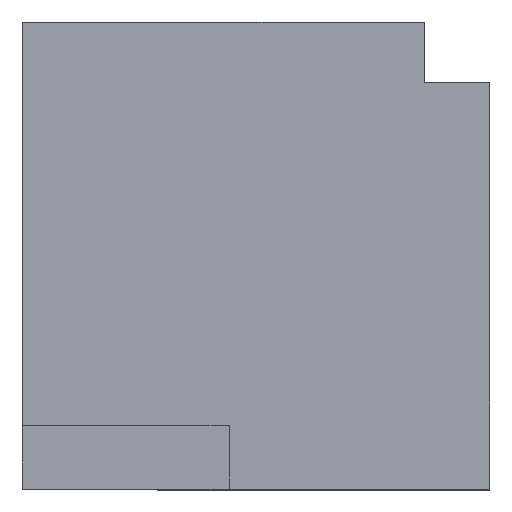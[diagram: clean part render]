
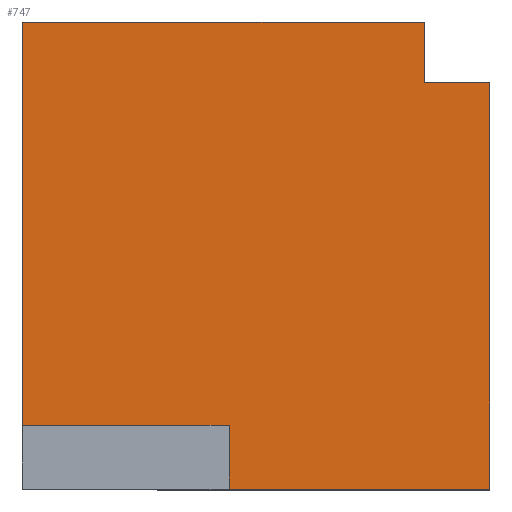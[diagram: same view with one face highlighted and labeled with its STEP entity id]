
A CAD part, top view. The second image highlights one B-rep face of the part: STEP entity #747.
In plain terms, the highlighted planar face has unit normal (0, 0, 1).
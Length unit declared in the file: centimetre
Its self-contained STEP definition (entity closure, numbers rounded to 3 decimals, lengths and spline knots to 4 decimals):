
#3 = VECTOR ( 'NONE', #610, 100. ) ;
#36 = VECTOR ( 'NONE', #1057, 100. ) ;
#56 = ORIENTED_EDGE ( 'NONE', *, *, #1014, .F. ) ;
#62 = LINE ( 'NONE', #412, #1060 ) ;
#65 = DIRECTION ( 'NONE',  ( 1., 0., 0. ) ) ;
#78 = FACE_OUTER_BOUND ( 'NONE', #398, .T. ) ;
#112 = LINE ( 'NONE', #381, #3 ) ;
#122 = CARTESIAN_POINT ( 'NONE',  ( 1000., 1000., 1000. ) ) ;
#127 = VECTOR ( 'NONE', #461, 100. ) ;
#140 = ORIENTED_EDGE ( 'NONE', *, *, #546, .T. ) ;
#162 = DIRECTION ( 'NONE',  ( 0., -1., 0. ) ) ;
#163 = EDGE_CURVE ( 'NONE', #279, #550, #62, .T. ) ;
#195 = CARTESIAN_POINT ( 'NONE',  ( 442.3295, 0., 1000. ) ) ;
#204 = ORIENTED_EDGE ( 'NONE', *, *, #933, .T. ) ;
#214 = CARTESIAN_POINT ( 'NONE',  ( 442.3295, 0., 1000. ) ) ;
#218 = LINE ( 'NONE', #214, #36 ) ;
#228 = ORIENTED_EDGE ( 'NONE', *, *, #500, .F. ) ;
#261 = VECTOR ( 'NONE', #460, 100. ) ;
#263 = DIRECTION ( 'NONE',  ( 0., 0., 1. ) ) ;
#272 = CARTESIAN_POINT ( 'NONE',  ( 0., 0., 1000. ) ) ;
#279 = VERTEX_POINT ( 'NONE', #947 ) ;
#280 = EDGE_CURVE ( 'NONE', #834, #555, #950, .T. ) ;
#285 = CARTESIAN_POINT ( 'NONE',  ( 0., 136.9359, 1000. ) ) ;
#293 = DIRECTION ( 'NONE',  ( -1., 0., 0. ) ) ;
#307 = VECTOR ( 'NONE', #65, 100. ) ;
#367 = LINE ( 'NONE', #122, #261 ) ;
#381 = CARTESIAN_POINT ( 'NONE',  ( 0., 1000., 1000. ) ) ;
#398 = EDGE_LOOP ( 'NONE', ( #938, #56, #413, #812, #228, #405, #204, #140 ) ) ;
#405 = ORIENTED_EDGE ( 'NONE', *, *, #163, .F. ) ;
#412 = CARTESIAN_POINT ( 'NONE',  ( 860.4687, 870.8925, 1000. ) ) ;
#413 = ORIENTED_EDGE ( 'NONE', *, *, #280, .T. ) ;
#435 = PLANE ( 'NONE',  #957 ) ;
#441 = VERTEX_POINT ( 'NONE', #285 ) ;
#460 = DIRECTION ( 'NONE',  ( 0., 1., 0. ) ) ;
#461 = DIRECTION ( 'NONE',  ( 1., 0., 0. ) ) ;
#463 = VECTOR ( 'NONE', #293, 100. ) ;
#472 = CARTESIAN_POINT ( 'NONE',  ( 0., 0., 1000. ) ) ;
#485 = VERTEX_POINT ( 'NONE', #880 ) ;
#493 = CARTESIAN_POINT ( 'NONE',  ( 442.3295, 136.9359, 1000. ) ) ;
#500 = EDGE_CURVE ( 'NONE', #550, #485, #742, .T. ) ;
#546 = EDGE_CURVE ( 'NONE', #710, #441, #792, .T. ) ;
#550 = VERTEX_POINT ( 'NONE', #885 ) ;
#552 = CARTESIAN_POINT ( 'NONE',  ( 1000., 0., 1000. ) ) ;
#555 = VERTEX_POINT ( 'NONE', #552 ) ;
#556 = VERTEX_POINT ( 'NONE', #493 ) ;
#565 = CARTESIAN_POINT ( 'NONE',  ( 860.4687, 870.8925, 1000. ) ) ;
#610 = DIRECTION ( 'NONE',  ( -1., 0., 0. ) ) ;
#710 = VERTEX_POINT ( 'NONE', #843 ) ;
#719 = VECTOR ( 'NONE', #162, 100. ) ;
#734 = CARTESIAN_POINT ( 'NONE',  ( 0., 1000., 1000. ) ) ;
#742 = LINE ( 'NONE', #565, #307 ) ;
#747 = ADVANCED_FACE ( 'NONE', ( #78 ), #435, .T. ) ;
#749 = DIRECTION ( 'NONE',  ( 1., 0., 0. ) ) ;
#784 = LINE ( 'NONE', #789, #463 ) ;
#789 = CARTESIAN_POINT ( 'NONE',  ( 442.3295, 136.9359, 1000. ) ) ;
#792 = LINE ( 'NONE', #734, #719 ) ;
#812 = ORIENTED_EDGE ( 'NONE', *, *, #913, .T. ) ;
#834 = VERTEX_POINT ( 'NONE', #195 ) ;
#843 = CARTESIAN_POINT ( 'NONE',  ( 0., 1000., 1000. ) ) ;
#846 = EDGE_CURVE ( 'NONE', #556, #441, #784, .T. ) ;
#880 = CARTESIAN_POINT ( 'NONE',  ( 1000., 870.8925, 1000. ) ) ;
#885 = CARTESIAN_POINT ( 'NONE',  ( 860.4687, 870.8925, 1000. ) ) ;
#913 = EDGE_CURVE ( 'NONE', #555, #485, #367, .T. ) ;
#933 = EDGE_CURVE ( 'NONE', #279, #710, #112, .T. ) ;
#938 = ORIENTED_EDGE ( 'NONE', *, *, #846, .F. ) ;
#947 = CARTESIAN_POINT ( 'NONE',  ( 860.4687, 1000., 1000. ) ) ;
#950 = LINE ( 'NONE', #472, #127 ) ;
#957 = AXIS2_PLACEMENT_3D ( 'NONE', #272, #263, #749 ) ;
#1014 = EDGE_CURVE ( 'NONE', #834, #556, #218, .T. ) ;
#1057 = DIRECTION ( 'NONE',  ( 0., 1., 0. ) ) ;
#1060 = VECTOR ( 'NONE', #1064, 100. ) ;
#1064 = DIRECTION ( 'NONE',  ( 0., -1., 0. ) ) ;
